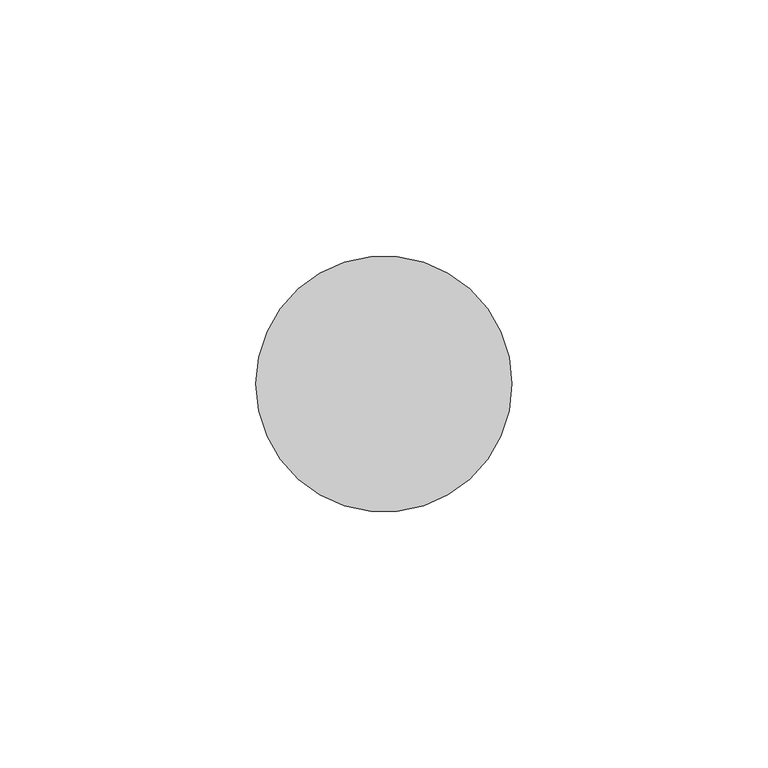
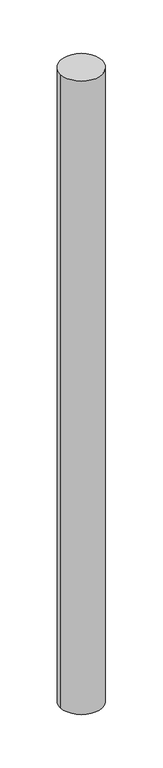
"""IFC4 building model written with IfcOpenShell, lengths in millimetres: member geometry, 圓形豎框 : 25mm 半徑."""

import ifcopenshell
import ifcopenshell.guid

model = None  # the IFC model being written
_history = None  # IfcOwnerHistory: only IFC2X3 demands one
_inside = {}  # id of a spatial element -> (the spatial element, [elements in it])
_under = {}  # id of a project, library or spatial element -> (it, [spatial elements below it])
_declared = {}  # id of a project -> (the project, [libraries it declares])
_typed = {}  # id of a type object -> (the type object, [elements of that type])
_made_of = {}  # id of a material, layer set ... -> (it, [elements and type objects made of it])


def new_model(schema):
    """Start an empty IFC model of exactly this schema.

    Asked for "IFC4X3", IfcOpenShell would pick the latest addendum, in which some entities
    have other attributes; the version numbers below select the first issue.
    IFC2X3 requires an IfcOwnerHistory on every rooted entity: one is made here for all.
    """
    global model, _history
    if schema == "IFC4X3":
        model = ifcopenshell.file(schema_version=(4, 3, 0, 0))
    else:
        model = ifcopenshell.file(schema=schema)
    _inside.clear()
    _under.clear()
    _declared.clear()
    _typed.clear()
    _made_of.clear()
    _history = None
    if model.schema == "IFC2X3":
        org = make("IfcOrganization", Name="unknown")
        user = make(
            "IfcPersonAndOrganization",
            ThePerson=make("IfcPerson", FamilyName="unknown"),
            TheOrganization=org,
        )
        app = make(
            "IfcApplication",
            ApplicationDeveloper=org,
            Version="unknown",
            ApplicationFullName="unknown",
            ApplicationIdentifier="unknown",
        )
        _history = make(
            "IfcOwnerHistory",
            OwningUser=user,
            OwningApplication=app,
            ChangeAction="ADDED",
            CreationDate=0,
        )
    return model


def make(cls, **values):
    """One entity of the class cls with the attributes given. An attribute that is None is left unset."""
    return model.create_entity(
        cls, **{name: value for name, value in values.items() if value is not None}
    )


def rooted(cls, **values):
    """An entity with a GlobalId (a new one), such as an element, a storey or a relation."""
    return make(cls, GlobalId=ifcopenshell.guid.new(), OwnerHistory=_history, **values)


def si_unit(unit_type, name, prefix=None):
    """IfcSIUnit, for example si_unit("LENGTHUNIT", "METRE", prefix="MILLI")."""
    return make("IfcSIUnit", UnitType=unit_type, Prefix=prefix, Name=name)


def assignment(units):
    """IfcUnitAssignment: the units of a project."""
    return None if units is None else make("IfcUnitAssignment", Units=units)


def point(xyz):
    """IfcCartesianPoint."""
    return None if xyz is None else make("IfcCartesianPoint", Coordinates=xyz)


def direction(xyz):
    """IfcDirection."""
    return None if xyz is None else make("IfcDirection", DirectionRatios=xyz)


def frame(location, z_axis=None, x_axis=None):
    """IfcAxis2Placement3D, a coordinate frame: its origin and axes. An axis left out is left unset."""
    return make(
        "IfcAxis2Placement3D",
        Location=point(location),
        Axis=direction(z_axis),
        RefDirection=direction(x_axis),
    )


def frame_2d(location, x_axis=None):
    """IfcAxis2Placement2D, a coordinate frame in the plane: its origin and x axis."""
    return make(
        "IfcAxis2Placement2D", Location=point(location), RefDirection=direction(x_axis)
    )


def origin():
    """The frame at (0, 0, 0) with its axes left unset."""
    return frame((0.0, 0.0, 0.0))


def origin_2d():
    """The frame at (0, 0) in the plane with its x axis left unset."""
    return frame_2d((0.0, 0.0))


def place(relative_to, where):
    """IfcLocalPlacement: puts the frame where relative to a parent placement (None: the world)."""
    return make(
        "IfcLocalPlacement", PlacementRelTo=relative_to, RelativePlacement=where
    )


def context(
    kind, dimensions, precision=None, world=None, true_north=None, identifier=None
):
    """IfcGeometricRepresentationContext, for example the 3D "Model" context."""
    return make(
        "IfcGeometricRepresentationContext",
        ContextIdentifier=identifier,
        ContextType=kind,
        CoordinateSpaceDimension=dimensions,
        Precision=precision,
        WorldCoordinateSystem=world,
        TrueNorth=true_north,
    )


def project(units=None, contexts=None):
    """IfcProject with its units and contexts."""
    return rooted(
        "IfcProject",
        Name="project",
        RepresentationContexts=contexts,
        UnitsInContext=assignment(units),
    )


def spatial(cls, under=None, at=None, **own):
    """A site, building, storey or space (cls), placed at a placement, below another one or the project."""
    s = rooted(cls, ObjectPlacement=at, **own)
    if under is not None:
        _under.setdefault(under.id(), (under, []))[1].append(s)
    return s


def circle_curve(where, radius):
    """IfcCircle in the frame where."""
    return make("IfcCircle", Position=where, Radius=radius)


def trimmed(basis, trim1, trim2, sense, master):
    """IfcTrimmedCurve: the piece of a basis curve between two trims."""
    return make(
        "IfcTrimmedCurve",
        BasisCurve=basis,
        Trim1=trim1,
        Trim2=trim2,
        SenseAgreement=sense,
        MasterRepresentation=master,
    )


def segment(curve, same_sense, transition):
    """IfcCompositeCurveSegment."""
    return make(
        "IfcCompositeCurveSegment",
        Transition=transition,
        SameSense=same_sense,
        ParentCurve=curve,
    )


def composite_curve(segments, self_intersect=None):
    """IfcCompositeCurve: segments joined end to end."""
    return make("IfcCompositeCurve", Segments=segments, SelfIntersect=self_intersect)


def outline(outer, holes=None, kind="AREA"):
    """IfcArbitraryClosedProfileDef: a profile drawn as a closed curve; with holes, ...WithVoids."""
    if holes is None:
        return make("IfcArbitraryClosedProfileDef", ProfileType=kind, OuterCurve=outer)
    return make(
        "IfcArbitraryProfileDefWithVoids",
        ProfileType=kind,
        OuterCurve=outer,
        InnerCurves=holes,
    )


def extrude(swept, where, along, depth):
    """IfcExtrudedAreaSolid: the profile swept, set in the frame where, extruded along a direction by depth."""
    return make(
        "IfcExtrudedAreaSolid",
        SweptArea=swept,
        Position=where,
        ExtrudedDirection=direction(along),
        Depth=depth,
    )


def shape(context_of_items, identifier, shape_type, items):
    """IfcShapeRepresentation: the items that make up one representation, for example the "Body"."""
    return make(
        "IfcShapeRepresentation",
        ContextOfItems=context_of_items,
        RepresentationIdentifier=identifier,
        RepresentationType=shape_type,
        Items=items,
    )


def source(mapping_origin, context_of_items, identifier, shape_type, items):
    """IfcRepresentationMap: a shape defined once, which mapped items show again and again."""
    return make(
        "IfcRepresentationMap",
        MappingOrigin=mapping_origin,
        MappedRepresentation=shape(context_of_items, identifier, shape_type, items),
    )


def transform(
    local_origin,
    x_axis=None,
    y_axis=None,
    z_axis=None,
    scale=None,
    scale2=None,
    scale3=None,
    uniform=True,
):
    """IfcCartesianTransformationOperator3D, or its non-uniform kind. x_axis, y_axis, z_axis: its Axis1, 2, 3."""
    if uniform:
        return make(
            "IfcCartesianTransformationOperator3D",
            Axis1=direction(x_axis),
            Axis2=direction(y_axis),
            LocalOrigin=point(local_origin),
            Scale=scale,
            Axis3=direction(z_axis),
        )
    return make(
        "IfcCartesianTransformationOperator3DnonUniform",
        Axis1=direction(x_axis),
        Axis2=direction(y_axis),
        LocalOrigin=point(local_origin),
        Scale=scale,
        Axis3=direction(z_axis),
        Scale2=scale2,
        Scale3=scale3,
    )


def mapped(mapping_source, mapping_target):
    """IfcMappedItem: shows the shape of a source again, moved by a transform."""
    return make(
        "IfcMappedItem", MappingSource=mapping_source, MappingTarget=mapping_target
    )


def made_of(thing, what):
    """Note that an element or type object is made of a material, layer set ...; save() writes the relation."""
    if what is not None:
        _made_of.setdefault(what.id(), (what, []))[1].append(thing)
    return thing


def element(
    cls,
    number,
    at=None,
    inside=None,
    cuts=None,
    type_object=None,
    material=None,
    context=None,
    identifier="Body",
    shape_type=None,
    held_by="IfcProductDefinitionShape",
    body=None,
    shapes=None,
    **own,
):
    """One element of the class cls, such as IfcWall. Its Tag is "e" and its number.

    at: its placement. inside: the storey or other place that contains it. cuts: it is an
    opening in that element (IfcRelVoidsElement). A single representation is given by context,
    identifier, shape_type and body (its items); several are given by shapes. held_by: the class
    of the entity that holds the representations. save() writes the other relations.
    """
    e = rooted(cls, Tag="e%d" % number, ObjectPlacement=at, **own)
    if body is not None:
        shapes = [shape(context, identifier, shape_type, body)]
    if shapes is not None:
        e.Representation = make(held_by, Representations=shapes)
    if inside is not None:
        _inside.setdefault(inside.id(), (inside, []))[1].append(e)
    if cuts is not None:
        rooted(
            "IfcRelVoidsElement", RelatingBuildingElement=cuts, RelatedOpeningElement=e
        )
    if type_object is not None:
        _typed.setdefault(type_object.id(), (type_object, []))[1].append(e)
    return made_of(e, material)


def aggregate(whole, parts):
    """IfcRelAggregates: a whole, such as a stair, and the parts it consists of."""
    return rooted("IfcRelAggregates", RelatingObject=whole, RelatedObjects=parts)


def save(model, path):
    """Write the relations noted so far, then the file.

    IfcRelAggregates (storeys below a building ...), IfcRelContainedInSpatialStructure (elements
    in a storey), IfcRelDefinesByType, IfcRelAssociatesMaterial and IfcRelDeclares: one each for
    every whole, place, type object, material and project.
    """
    for whole, parts in _under.values():
        aggregate(whole, parts)
    for where, things in _inside.values():
        rooted(
            "IfcRelContainedInSpatialStructure",
            RelatedElements=things,
            RelatingStructure=where,
        )
    for kind, things in _typed.values():
        rooted("IfcRelDefinesByType", RelatedObjects=things, RelatingType=kind)
    for what, things in _made_of.values():
        rooted("IfcRelAssociatesMaterial", RelatedObjects=things, RelatingMaterial=what)
    for by, libraries in _declared.values():
        rooted("IfcRelDeclares", RelatingContext=by, RelatedDefinitions=libraries)
    model.write(path)


def member_ed3956ca(model_context):
    return source(origin(), model_context, "Body", "SweptSolid", [
        extrude(outline(composite_curve([segment(trimmed(circle_curve(origin_2d(), 25.0), [point((25.0, 0.0))], [point((-25.0, 0.0))], False, "CARTESIAN"), True, "CONTINUOUS"), segment(trimmed(circle_curve(origin_2d(), 25.0), [point((-25.0, 0.0))], [point((25.0, 0.0))], False, "CARTESIAN"), True, "CONTINUOUS")], self_intersect=False)), frame((0.0, 0.0, -799.821507), z_axis=(0.0, 0.0, 1.0), x_axis=(1.0, 0.0, 0.0)), (0.0, 0.0, 1.0), 799.821507),
    ])


if __name__ == "__main__":
    model = new_model("IFC4")
    model_context = context("Model", 3, world=origin())
    ifc_project = project(units=[si_unit("LENGTHUNIT", "METRE", prefix="MILLI")], contexts=[model_context])
    site = spatial("IfcSite", under=ifc_project)
    building = spatial("IfcBuilding", under=site)
    placement = place(None, origin())
    member_shape = member_ed3956ca(model_context)
    element("IfcMember", 1, ObjectType="圓形豎框 : 25mm 半徑", at=placement, inside=building, context=model_context, shape_type="MappedRepresentation", body=[
        mapped(member_shape, transform((0.0, 0.0, 0.0), x_axis=(1.0, 0.0, 0.0), y_axis=(0.0, 1.0, 0.0), z_axis=(0.0, 0.0, 1.0))),
    ])
    save(model, "model.ifc")
